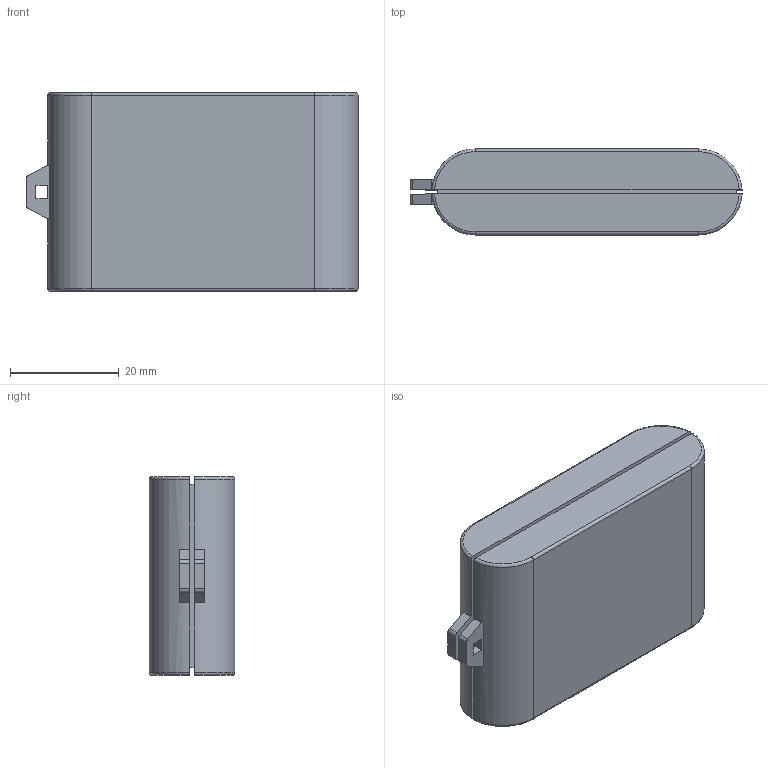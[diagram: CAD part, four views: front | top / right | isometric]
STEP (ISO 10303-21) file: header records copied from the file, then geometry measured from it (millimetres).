
FILE_DESCRIPTION (( 'STEP AP214' ), '1' );
FILE_NAME ('Conjunt PP43.STEP', '2016-10-06T16:24:52', ( 'aaa' ), ( '' ), 'SwSTEP 2.0', 'SolidWorks 2013', '' );
FILE_SCHEMA (( 'AUTOMOTIVE_DESIGN' ));
Length unit declared in the file: millimetre
Products named in the file (9): Boto negre PP43; Component boto negre PP43; Component boto vermell PP43; Component boto blau PP24; Boto vermell PP43; Boto blau PP43; Tapa PP43; Cos PP43; Conjunt PP43
Assembly tree (8 placements, depth 2):
  Conjunt PP43
    Cos PP43
    Tapa PP43
    Boto blau PP43
    Boto vermell PP43
    Component boto blau PP24
    Component boto vermell PP43
    Component boto negre PP43
    Boto negre PP43
Bounding box: 61 x 15.75 x 36.5 mm (x, y, z)
Volume: 10978.9 mm3; surface area: 15090.8 mm2
Topology: 8 solids, 8 shells, 266 faces, 656 edges, 432 vertices
Faces by surface type: plane 170, cylinder 88, torus 8
Entity records: 8346 total; most frequent: CARTESIAN_POINT 1457, DIRECTION 1406, ORIENTED_EDGE 1312, EDGE_CURVE 656, AXIS2_PLACEMENT_3D 485, VECTOR 436, LINE 436, VERTEX_POINT 432
